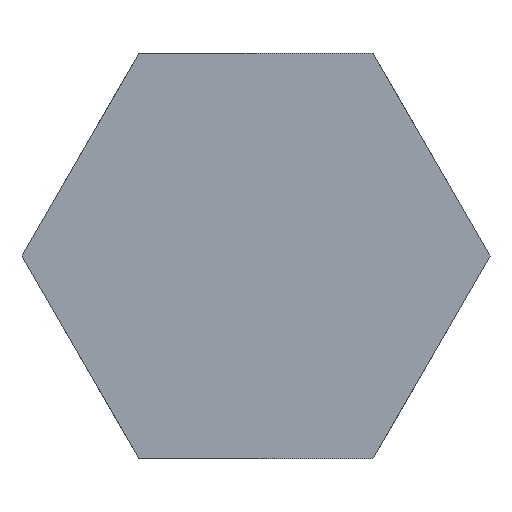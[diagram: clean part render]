
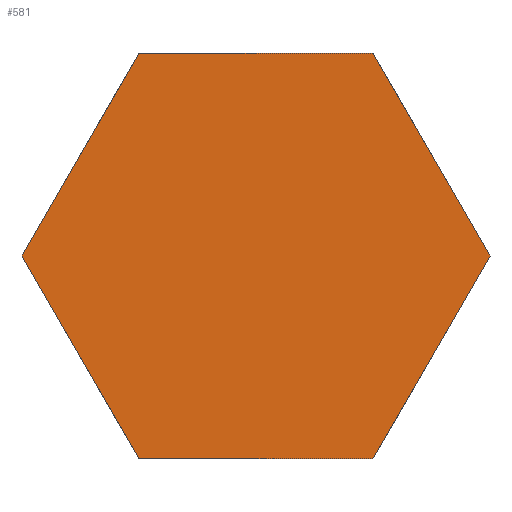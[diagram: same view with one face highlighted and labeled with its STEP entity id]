
A CAD part, front view. The second image highlights one B-rep face of the part: STEP entity #581.
In plain terms, the highlighted planar face has unit normal (0, -1, 0) as drawn and (0, 1, 0) by its records, which use the part's own axes.
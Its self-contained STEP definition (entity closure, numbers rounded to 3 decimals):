
#6 = VECTOR ( 'NONE', #856, 1000. ) ;
#12 = VECTOR ( 'NONE', #197, 1000. ) ;
#15 = VECTOR ( 'NONE', #862, 1000. ) ;
#43 = VECTOR ( 'NONE', #866, 1000. ) ;
#49 = VECTOR ( 'NONE', #412, 1000. ) ;
#71 = VECTOR ( 'NONE', #435, 1000. ) ;
#148 = AXIS2_PLACEMENT_3D ( 'NONE', #681, #680, #679 ) ;
#197 = DIRECTION ( 'NONE',  ( -1., 0., 0. ) ) ;
#211 = LINE ( 'NONE', #215, #12 ) ;
#215 = CARTESIAN_POINT ( 'NONE',  ( 5.485, 7.5, -9.5 ) ) ;
#307 = LINE ( 'NONE', #437, #71 ) ;
#412 = DIRECTION ( 'NONE',  ( -0.5, 0., 0.866 ) ) ;
#421 = LINE ( 'NONE', #425, #49 ) ;
#425 = CARTESIAN_POINT ( 'NONE',  ( -5.485, 7.5, -9.5 ) ) ;
#435 = DIRECTION ( 'NONE',  ( -0.5, 0., -0.866 ) ) ;
#437 = CARTESIAN_POINT ( 'NONE',  ( 10.97, 7.5, 0. ) ) ;
#458 = EDGE_CURVE ( 'NONE', #1229, #1220, #307, .T. ) ;
#465 = EDGE_CURVE ( 'NONE', #1230, #1082, #421, .T. ) ;
#511 = EDGE_CURVE ( 'NONE', #1220, #1230, #211, .T. ) ;
#520 = EDGE_CURVE ( 'NONE', #1082, #1144, #803, .T. ) ;
#521 = EDGE_CURVE ( 'NONE', #1144, #1086, #865, .T. ) ;
#522 = EDGE_CURVE ( 'NONE', #1086, #1229, #861, .T. ) ;
#581 = ADVANCED_FACE ( 'NONE', ( #693 ), #682, .T. ) ;
#630 = CARTESIAN_POINT ( 'NONE',  ( -5.485, 7.5, -9.5 ) ) ;
#632 = CARTESIAN_POINT ( 'NONE',  ( 10.97, 7.5, 0. ) ) ;
#633 = CARTESIAN_POINT ( 'NONE',  ( 5.485, 7.5, -9.5 ) ) ;
#651 = CARTESIAN_POINT ( 'NONE',  ( -5.485, 7.5, 9.5 ) ) ;
#661 = CARTESIAN_POINT ( 'NONE',  ( 5.485, 7.5, 9.5 ) ) ;
#664 = CARTESIAN_POINT ( 'NONE',  ( -10.97, 7.5, 0. ) ) ;
#679 = DIRECTION ( 'NONE',  ( 0., 0., 1. ) ) ;
#680 = DIRECTION ( 'NONE',  ( 0., 1., 0. ) ) ;
#681 = CARTESIAN_POINT ( 'NONE',  ( -10.97, 7.5, 0. ) ) ;
#682 = PLANE ( 'NONE',  #148 ) ;
#693 = FACE_OUTER_BOUND ( 'NONE', #1119, .T. ) ;
#803 = LINE ( 'NONE', #867, #43 ) ;
#856 = DIRECTION ( 'NONE',  ( 0.5, 0., -0.866 ) ) ;
#859 = CARTESIAN_POINT ( 'NONE',  ( 5.485, 7.5, 9.5 ) ) ;
#861 = LINE ( 'NONE', #859, #6 ) ;
#862 = DIRECTION ( 'NONE',  ( 1., 0., 0. ) ) ;
#863 = CARTESIAN_POINT ( 'NONE',  ( -5.485, 7.5, 9.5 ) ) ;
#865 = LINE ( 'NONE', #863, #15 ) ;
#866 = DIRECTION ( 'NONE',  ( 0.5, 0., 0.866 ) ) ;
#867 = CARTESIAN_POINT ( 'NONE',  ( -10.97, 7.5, 0. ) ) ;
#1068 = ORIENTED_EDGE ( 'NONE', *, *, #511, .T. ) ;
#1070 = ORIENTED_EDGE ( 'NONE', *, *, #520, .T. ) ;
#1082 = VERTEX_POINT ( 'NONE', #664 ) ;
#1086 = VERTEX_POINT ( 'NONE', #661 ) ;
#1119 = EDGE_LOOP ( 'NONE', ( #1250, #1070, #1211, #1232, #1240, #1068 ) ) ;
#1144 = VERTEX_POINT ( 'NONE', #651 ) ;
#1211 = ORIENTED_EDGE ( 'NONE', *, *, #521, .T. ) ;
#1220 = VERTEX_POINT ( 'NONE', #633 ) ;
#1229 = VERTEX_POINT ( 'NONE', #632 ) ;
#1230 = VERTEX_POINT ( 'NONE', #630 ) ;
#1232 = ORIENTED_EDGE ( 'NONE', *, *, #522, .T. ) ;
#1240 = ORIENTED_EDGE ( 'NONE', *, *, #458, .T. ) ;
#1250 = ORIENTED_EDGE ( 'NONE', *, *, #465, .T. ) ;
